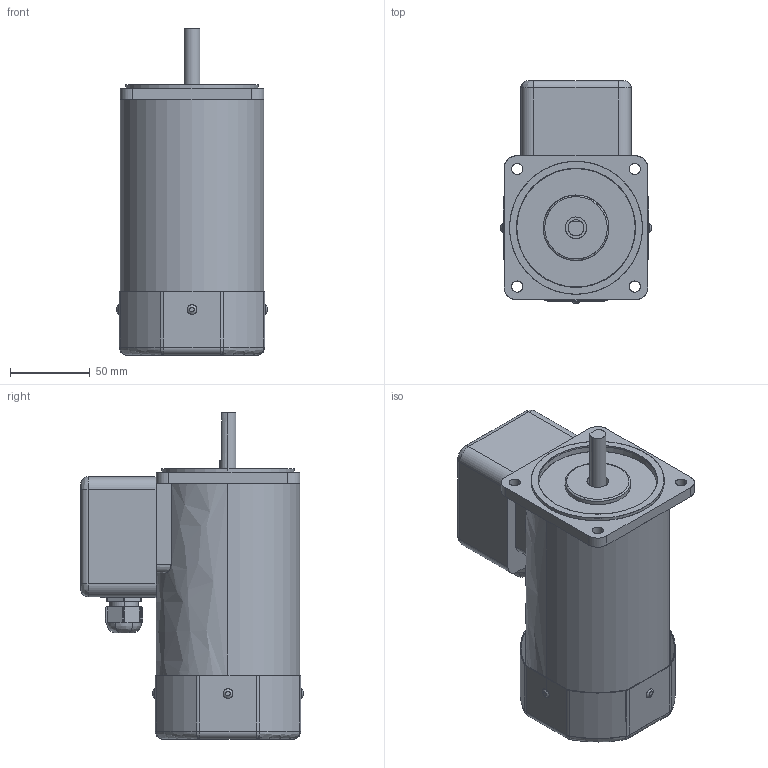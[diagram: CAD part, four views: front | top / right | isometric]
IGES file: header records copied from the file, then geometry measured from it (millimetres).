
Start section: SolidWorks IGES file using analytic representation for surfaces
Bounding box: 94 x 139 x 204 mm (x, y, z)
Surface area: 175299.6 mm2 (no closed solid volume)
Topology: 0 solids, 0 shells, 304 faces, 4810 edges, 4794 vertices
Faces by surface type: bspline 170, revolution 134
